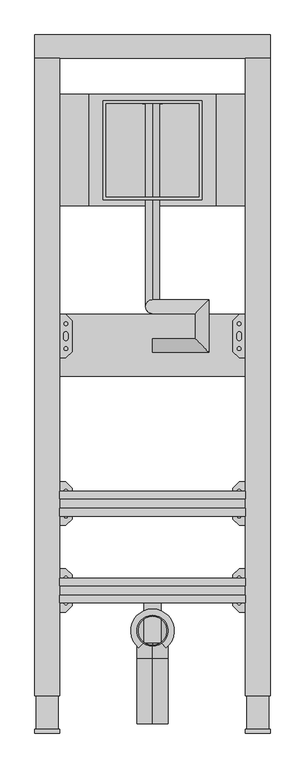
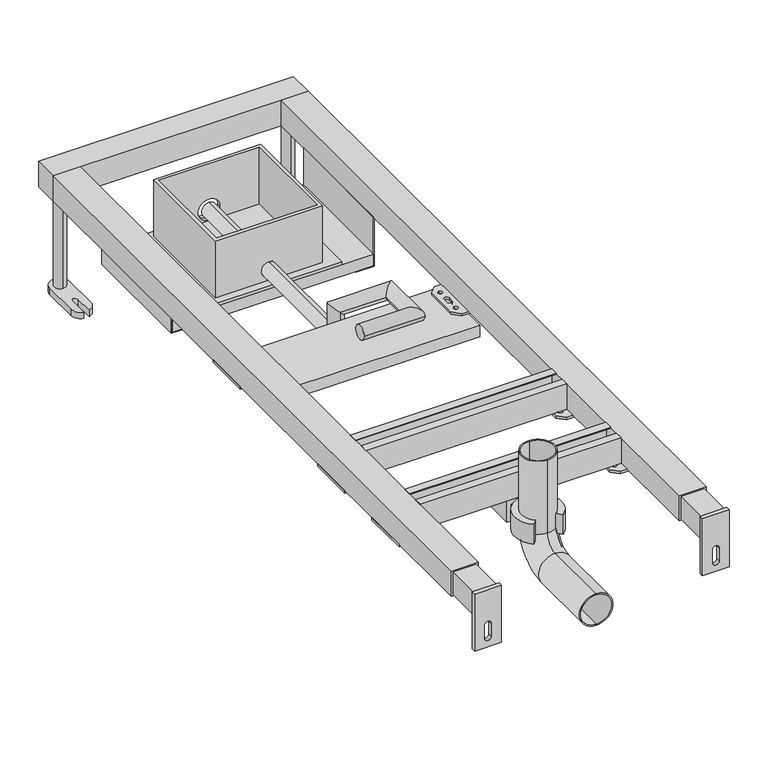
"""IFC4 building model written with IfcOpenShell, lengths in millimetres: flow terminal geometry, LIV-FIX UR 135 IR 230V : LIV-FIX UR 135 IR 230V."""

from ifc_helpers import new_model, si_unit, point, frame, frame_2d, origin, origin_with_axes, place, context, project, spatial, polyline, circle_curve, ellipse_curve, trimmed, segment, composite_curve, outline, extrude, source, transform, mapped, element, save
from ifc_brep_helpers import plane_surface, cylinder_surface, revolved_surface, advanced_brep


def flow_terminal_b01160f4(model_context):
    return source(origin(), model_context, "Body", "SolidModel", [
        advanced_brep(
        [(0.0, 614.0, 167.378088), (0.0, 636.0, 167.378088), (91.0, 614.0, 167.378088), (69.0, 636.0, 167.378088), (91.0, 698.5546816, 167.378088), (69.0, 676.5546816, 167.378088), (0.0, 698.5546816, 167.378088), (0.0, 676.5546816, 167.378088), (0.0, 698.5546816, 135.5), (0.0, 676.5546816, 113.5), (0.0, 1015.0167019, 135.5), (0.0, 1015.0167019, 113.5)],
        [
            (0, 1, circle_curve(frame((0.0, 625.0, 167.378088), z_axis=(-1.0, 0.0, 0.0), x_axis=(0.0, 1.0, 0.0)), 11.0)),
            (1, 0, circle_curve(frame((0.0, 625.0, 167.378088), z_axis=(-1.0, 0.0, 0.0), x_axis=(0.0, 1.0, 0.0)), 11.0)),
            (0, 2),
            (2, 3, ellipse_curve(frame((80.0, 625.0, 167.378088), z_axis=(-0.7071067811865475, -0.7071067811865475, 0.0), x_axis=(-0.7071067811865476, 0.7071067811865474, 0.0)), 15.5563492, 11.0)),
            (3, 1),
            (3, 2, ellipse_curve(frame((80.0, 625.0, 167.378088), z_axis=(-0.7071067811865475, -0.7071067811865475, 0.0), x_axis=(-0.7071067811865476, 0.7071067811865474, 0.0)), 15.5563492, 11.0)),
            (2, 4),
            (4, 5, ellipse_curve(frame((80.0, 687.5546816, 167.378088), z_axis=(0.7071067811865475, -0.7071067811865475, 0.0), x_axis=(-0.7071067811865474, -0.7071067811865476, 0.0)), 15.5563492, 11.0)),
            (5, 3),
            (5, 4, ellipse_curve(frame((80.0, 687.5546816, 167.378088), z_axis=(0.7071067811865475, -0.7071067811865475, 0.0), x_axis=(-0.7071067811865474, -0.7071067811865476, 0.0)), 15.5563492, 11.0)),
            (4, 6),
            (6, 7, ellipse_curve(frame((0.0, 687.5546816, 167.378088), z_axis=(0.7071067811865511, 0.0, 0.7071067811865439), x_axis=(0.7071067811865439, 0.0, -0.7071067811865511)), 15.5563492, 11.0)),
            (7, 5),
            (7, 6, ellipse_curve(frame((0.0, 687.5546816, 167.378088), z_axis=(0.7071067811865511, 0.0, 0.7071067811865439), x_axis=(0.7071067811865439, 0.0, -0.7071067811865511)), 15.5563492, 11.0)),
            (6, 8),
            (8, 9, ellipse_curve(frame((0.0, 687.5546816, 124.5), z_axis=(0.0, -0.7071067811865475, 0.7071067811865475), x_axis=(0.0, 0.7071067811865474, 0.7071067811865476)), 15.5563492, 11.0)),
            (9, 7),
            (9, 8, ellipse_curve(frame((0.0, 687.5546816, 124.5), z_axis=(0.0, -0.7071067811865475, 0.7071067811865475), x_axis=(0.0, 0.7071067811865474, 0.7071067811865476)), 15.5563492, 11.0)),
            (10, 11, circle_curve(frame((0.0, 1015.0167019, 124.5), z_axis=(0.0, 1.0, 0.0), x_axis=(0.0, 0.0, -1.0)), 11.0)),
            (11, 10, circle_curve(frame((0.0, 1015.0167019, 124.5), z_axis=(0.0, 1.0, 0.0), x_axis=(0.0, 0.0, -1.0)), 11.0)),
            (8, 10),
            (11, 9),
        ],
        [
            plane_surface(frame((0.0, 625.0, 156.378088), z_axis=(-1.0, 0.0, 0.0), x_axis=(0.0, 1.0, 0.0))),
            cylinder_surface(frame((0.0, 625.0, 167.378088), z_axis=(-1.0, 0.0, 0.0), x_axis=(0.0, 1.0, 0.0)), 11.0),
            cylinder_surface(frame((80.0, 625.0, 167.378088), z_axis=(0.0, -1.0, 0.0), x_axis=(-1.0, 0.0, 0.0)), 11.0),
            cylinder_surface(frame((80.0, 687.5546816, 167.378088), z_axis=(1.0, 0.0, 0.0), x_axis=(0.0, -1.0, 0.0)), 11.0),
            cylinder_surface(frame((0.0, 687.5546816, 167.378088), z_axis=(0.0, 0.0, 1.0), x_axis=(0.0, -1.0, 0.0)), 11.0),
            plane_surface(frame((-11.0, 1015.0167019, 124.5), z_axis=(0.0, 1.0, 0.0), x_axis=(0.0, 0.0, 1.0))),
            cylinder_surface(frame((0.0, 687.5546816, 124.5), z_axis=(0.0, -1.0, 0.0), x_axis=(0.0, 0.0, -1.0)), 11.0),
        ],
        [
            (0, [[1, 2]]),
            (1, [[-1, 3, 4, 5]]),
            (1, [[-2, -5, 6, -3]]),
            (2, [[-4, 7, 8, 9]]),
            (2, [[-6, -9, 10, -7]]),
            (3, [[-8, 11, 12, 13]]),
            (3, [[-10, -13, 14, -11]]),
            (4, [[-12, 15, 16, 17]]),
            (4, [[-14, -17, 18, -15]]),
            (5, [[19, 20]]),
            (6, [[-16, 21, -20, 22]]),
            (6, [[-18, -22, -19, -21]]),
        ],
    ),
        extrude(outline(polyline([(102.4676142, 1030.1667019), (102.4676142, 850.0770204), (-102.5323858, 850.0770204), (-102.5323858, 1030.1667019), (102.4676142, 1030.1667019)])), frame((0.0, 0.0, 101.5), z_axis=(0.0, 0.0, 1.0), x_axis=(1.0, 0.0, 0.0)), (0.0, 0.0, 1.0), 5.0),
        advanced_brep(
        [(-79.85, 1020.0167019, 196.5), (-79.85, 860.2270204, 196.5), (79.85, 860.2270204, 196.5), (79.85, 1020.0167019, 196.5), (74.85, 1015.0167019, 196.5), (74.85, 865.2270204, 196.5), (-74.85, 865.2270204, 196.5), (-74.85, 1015.0167019, 196.5), (-79.85, 1020.0167019, 101.5), (79.85, 1020.0167019, 101.5), (79.85, 860.2270204, 101.5), (-79.85, 860.2270204, 101.5), (74.85, 1015.0167019, 101.5), (-74.85, 1015.0167019, 101.5), (-74.85, 865.2270204, 101.5), (74.85, 865.2270204, 101.5), (11.0, 865.2270204, 124.5), (-11.0, 865.2270204, 124.5), (-16.25, 1015.0167019, 124.5), (16.25, 1015.0167019, 124.5), (-11.0, 860.2270204, 124.5), (11.0, 860.2270204, 124.5), (16.25, 1020.0167019, 124.5), (-16.25, 1020.0167019, 124.5)],
        [
            (0, 1),
            (1, 2),
            (2, 3),
            (3, 0),
            (4, 5),
            (5, 6),
            (6, 7),
            (7, 4),
            (8, 9),
            (9, 10),
            (10, 11),
            (11, 8),
            (12, 13),
            (13, 14),
            (14, 15),
            (15, 12),
            (4, 12),
            (15, 5),
            (14, 6),
            (16, 17, circle_curve(frame((0.0, 865.2270204, 124.5), z_axis=(0.0, -1.0, 0.0), x_axis=(1.0, 0.0, 0.0)), 11.0)),
            (17, 16, circle_curve(frame((0.0, 865.2270204, 124.5), z_axis=(0.0, -1.0, 0.0), x_axis=(1.0, 0.0, 0.0)), 11.0)),
            (13, 7),
            (18, 19, circle_curve(frame((0.0, 1015.0167019, 124.5), z_axis=(0.0, 1.0, 0.0), x_axis=(-1.0, 0.0, 0.0)), 16.25)),
            (19, 18, circle_curve(frame((0.0, 1015.0167019, 124.5), z_axis=(0.0, 1.0, 0.0), x_axis=(-1.0, 0.0, 0.0)), 16.25)),
            (0, 8),
            (11, 1),
            (10, 2),
            (20, 21, circle_curve(frame((0.0, 860.2270204, 124.5), z_axis=(0.0, 1.0, 0.0), x_axis=(1.0, 0.0, 0.0)), 11.0)),
            (21, 20, circle_curve(frame((0.0, 860.2270204, 124.5), z_axis=(0.0, 1.0, 0.0), x_axis=(1.0, 0.0, 0.0)), 11.0)),
            (9, 3),
            (22, 23, circle_curve(frame((0.0, 1020.0167019, 124.5), z_axis=(0.0, -1.0, 0.0), x_axis=(-1.0, 0.0, 0.0)), 16.25)),
            (23, 22, circle_curve(frame((0.0, 1020.0167019, 124.5), z_axis=(0.0, -1.0, 0.0), x_axis=(-1.0, 0.0, 0.0)), 16.25)),
            (22, 19),
            (18, 23),
            (20, 17),
            (16, 21),
        ],
        [
            plane_surface(frame((74.85, 1015.0167019, 196.5), z_axis=(0.0, 0.0, 1.0), x_axis=(0.0, -1.0, 0.0))),
            plane_surface(frame((74.85, 1015.0167019, 101.5), z_axis=(0.0, 0.0, -1.0), x_axis=(0.0, 1.0, 0.0))),
            plane_surface(frame((74.85, 1015.0167019, 196.5), z_axis=(-1.0, 0.0, 0.0), x_axis=(0.0, 0.0, -1.0))),
            plane_surface(frame((74.85, 865.2270204, 196.5), z_axis=(0.0, 1.0, 0.0), x_axis=(0.0, 0.0, -1.0))),
            plane_surface(frame((-74.85, 865.2270204, 196.5), z_axis=(1.0, 0.0, 0.0), x_axis=(0.0, 0.0, -1.0))),
            plane_surface(frame((-74.85, 1015.0167019, 196.5), z_axis=(0.0, -1.0, 0.0), x_axis=(0.0, 0.0, -1.0))),
            plane_surface(frame((-79.85, 1020.0167019, 196.5), z_axis=(-1.0, 0.0, 0.0), x_axis=(0.0, 0.0, -1.0))),
            plane_surface(frame((-79.85, 860.2270204, 196.5), z_axis=(0.0, -1.0, 0.0), x_axis=(0.0, 0.0, -1.0))),
            plane_surface(frame((79.85, 860.2270204, 196.5), z_axis=(1.0, 0.0, 0.0), x_axis=(0.0, 0.0, -1.0))),
            plane_surface(frame((79.85, 1020.0167019, 196.5), z_axis=(0.0, 1.0, 0.0), x_axis=(0.0, 0.0, -1.0))),
            revolved_surface(polyline([(-16.25, 1015.0167019, 124.5), (-16.25, 1020.0167019, 124.5)]), (0.0, 1020.0167019, 124.5), (0.0, -1.0, 0.0)),
            revolved_surface(polyline([(11.0, 865.2270204, 124.5), (11.0, 860.2270204, 124.5)]), (0.0, 860.2270204, 124.5), (0.0, 1.0, 0.0)),
        ],
        [
            (0, [[1, 2, 3, 4], [5, 6, 7, 8]]),
            (1, [[9, 10, 11, 12], [13, 14, 15, 16]]),
            (2, [[-5, 17, -16, 18]]),
            (3, [[-6, -18, -15, 19], [20, 21]]),
            (4, [[-7, -19, -14, 22]]),
            (5, [[-8, -22, -13, -17], [23, 24]]),
            (6, [[-1, 25, -12, 26]]),
            (7, [[-2, -26, -11, 27], [28, 29]]),
            (8, [[-3, -27, -10, 30]]),
            (9, [[-4, -30, -9, -25], [31, 32]]),
            (10, [[33, -23, 34, -31]]),
            (10, [[-33, -32, -34, -24]]),
            (11, [[35, -20, 36, -28]]),
            (11, [[-35, -29, -36, -21]]),
        ],
    ),
        extrude(outline(polyline([(150.0, 1030.1667019), (150.0, 850.0770204), (-150.0, 850.0770204), (-150.0, 1030.1667019), (150.0, 1030.1667019)])), frame((0.0, 0.0, 83.5), z_axis=(0.0, 0.0, 1.0), x_axis=(1.0, 0.0, 0.0)), (0.0, 0.0, 1.0), 18.0),
        extrude(outline(polyline([(160.0, 185.0), (160.0, 150.0), (83.5, 150.0), (83.5, 123.5), (82.0, 123.5), (82.0, 151.5), (158.5, 151.5), (158.5, 185.0), (160.0, 185.0)])), frame((0.0, 850.0770204, 0.0), z_axis=(0.0, 1.0, 0.0), x_axis=(0.0, 0.0, 1.0)), (0.0, 0.0, 1.0), 180.0896815),
        extrude(outline(polyline([(160.0, -185.0), (158.5, -185.0), (158.5, -151.5), (82.0, -151.5), (82.0, -123.5), (83.5, -123.5), (83.5, -150.0), (160.0, -150.0), (160.0, -185.0)])), frame((0.0, 850.0770204, 0.0), z_axis=(0.0, 1.0, 0.0), x_axis=(0.0, 0.0, 1.0)), (0.0, 0.0, 1.0), 180.0896815),
        extrude(outline(polyline([(350.0, 200.0), (362.4845167, 200.0), (362.4845167, 198.5), (351.5, 198.5), (351.5, 161.5), (388.5, 161.5), (388.5, 198.5), (377.5154833, 198.5), (377.5154833, 200.0), (390.0, 200.0), (390.0, 160.0), (350.0, 160.0), (350.0, 200.0)])), frame((-150.0, 0.0, 0.0), z_axis=(1.0, 0.0, 0.0), x_axis=(0.0, 1.0, 0.0)), (0.0, 0.0, 1.0), 300.0),
        extrude(outline(polyline([(140.0, 335.0), (130.0, 345.0), (130.0, 395.0), (140.0, 405.0), (190.0, 405.0), (190.0, 335.0), (140.0, 335.0)]), holes=[composite_curve([segment(trimmed(circle_curve(frame_2d((175.0, 370.0)), 4.5), [point((175.0, 365.5))], [point((175.0, 374.5))], True, "CARTESIAN"), True, "CONTINUOUS"), segment(trimmed(circle_curve(frame_2d((175.0, 370.0)), 4.5), [point((175.0, 374.5))], [point((175.0, 365.5))], True, "CARTESIAN"), True, "CONTINUOUS")], self_intersect=False), composite_curve([segment(trimmed(circle_curve(frame_2d((175.0, 390.0)), 4.5), [point((175.0, 385.5))], [point((175.0, 394.5))], True, "CARTESIAN"), True, "CONTINUOUS"), segment(trimmed(circle_curve(frame_2d((175.0, 390.0)), 4.5), [point((175.0, 394.5))], [point((175.0, 385.5))], True, "CARTESIAN"), True, "CONTINUOUS")], self_intersect=False), composite_curve([segment(trimmed(circle_curve(frame_2d((175.0, 350.0)), 4.5), [point((175.0, 345.5))], [point((175.0, 354.5))], True, "CARTESIAN"), True, "CONTINUOUS"), segment(trimmed(circle_curve(frame_2d((175.0, 350.0)), 4.5), [point((175.0, 354.5))], [point((175.0, 345.5))], True, "CARTESIAN"), True, "CONTINUOUS")], self_intersect=False), composite_curve([segment(trimmed(circle_curve(frame_2d((140.0, 390.0)), 2.9795218), [point((140.0, 387.0204782))], [point((140.0, 392.9795218))], True, "CARTESIAN"), True, "CONTINUOUS"), segment(trimmed(circle_curve(frame_2d((140.0, 390.0)), 2.9795218), [point((140.0, 392.9795218))], [point((140.0, 387.0204782))], True, "CARTESIAN"), True, "CONTINUOUS")], self_intersect=False), composite_curve([segment(trimmed(circle_curve(frame_2d((140.0, 350.0)), 2.9795218), [point((140.0, 347.0204782))], [point((140.0, 352.9795218))], True, "CARTESIAN"), True, "CONTINUOUS"), segment(trimmed(circle_curve(frame_2d((140.0, 350.0)), 2.9795218), [point((140.0, 352.9795218))], [point((140.0, 347.0204782))], True, "CARTESIAN"), True, "CONTINUOUS")], self_intersect=False), composite_curve([segment(trimmed(circle_curve(frame_2d((140.0, 373.5)), 3.5), [point((143.5, 373.5))], [point((136.5, 373.5))], True, "CARTESIAN"), True, "CONTINUOUS"), segment(polyline([(136.5, 373.5), (136.5, 366.5)]), True, "CONTINUOUS"), segment(trimmed(circle_curve(frame_2d((140.0, 366.5)), 3.5), [point((136.5, 366.5))], [point((143.5, 366.5))], True, "CARTESIAN"), True, "CONTINUOUS"), segment(polyline([(143.5, 366.5), (143.5, 373.5)]), True, "CONTINUOUS")], self_intersect=False)]), frame((0.0, 0.0, 156.0), z_axis=(0.0, 0.0, 1.0), x_axis=(1.0, 0.0, 0.0)), (0.0, 0.0, 1.0), 4.0),
        extrude(outline(polyline([(-140.0, 335.0), (-190.0, 335.0), (-190.0, 405.0), (-140.0, 405.0), (-130.0, 395.0), (-130.0, 345.0), (-140.0, 335.0)]), holes=[composite_curve([segment(trimmed(circle_curve(frame_2d((-175.0, 370.0)), 4.5), [point((-175.0, 365.5))], [point((-175.0, 374.5))], True, "CARTESIAN"), True, "CONTINUOUS"), segment(trimmed(circle_curve(frame_2d((-175.0, 370.0)), 4.5), [point((-175.0, 374.5))], [point((-175.0, 365.5))], True, "CARTESIAN"), True, "CONTINUOUS")], self_intersect=False), composite_curve([segment(trimmed(circle_curve(frame_2d((-175.0, 390.0)), 4.5), [point((-175.0, 385.5))], [point((-175.0, 394.5))], True, "CARTESIAN"), True, "CONTINUOUS"), segment(trimmed(circle_curve(frame_2d((-175.0, 390.0)), 4.5), [point((-175.0, 394.5))], [point((-175.0, 385.5))], True, "CARTESIAN"), True, "CONTINUOUS")], self_intersect=False), composite_curve([segment(trimmed(circle_curve(frame_2d((-175.0, 350.0)), 4.5), [point((-175.0, 345.5))], [point((-175.0, 354.5))], True, "CARTESIAN"), True, "CONTINUOUS"), segment(trimmed(circle_curve(frame_2d((-175.0, 350.0)), 4.5), [point((-175.0, 354.5))], [point((-175.0, 345.5))], True, "CARTESIAN"), True, "CONTINUOUS")], self_intersect=False), composite_curve([segment(trimmed(circle_curve(frame_2d((-140.0, 390.0)), 2.9795218), [point((-140.0, 387.0204782))], [point((-140.0, 392.9795218))], True, "CARTESIAN"), True, "CONTINUOUS"), segment(trimmed(circle_curve(frame_2d((-140.0, 390.0)), 2.9795218), [point((-140.0, 392.9795218))], [point((-140.0, 387.0204782))], True, "CARTESIAN"), True, "CONTINUOUS")], self_intersect=False), composite_curve([segment(trimmed(circle_curve(frame_2d((-140.0, 350.0)), 2.9795218), [point((-140.0, 347.0204782))], [point((-140.0, 352.9795218))], True, "CARTESIAN"), True, "CONTINUOUS"), segment(trimmed(circle_curve(frame_2d((-140.0, 350.0)), 2.9795218), [point((-140.0, 352.9795218))], [point((-140.0, 347.0204782))], True, "CARTESIAN"), True, "CONTINUOUS")], self_intersect=False), composite_curve([segment(polyline([(-143.5, 373.5), (-143.5, 366.5)]), True, "CONTINUOUS"), segment(trimmed(circle_curve(frame_2d((-140.0, 366.5)), 3.5), [point((-143.5, 366.5))], [point((-136.5, 366.5))], True, "CARTESIAN"), True, "CONTINUOUS"), segment(polyline([(-136.5, 366.5), (-136.5, 373.5)]), True, "CONTINUOUS"), segment(trimmed(circle_curve(frame_2d((-140.0, 373.5)), 3.5), [point((-136.5, 373.5))], [point((-143.5, 373.5))], True, "CARTESIAN"), True, "CONTINUOUS")], self_intersect=False)]), frame((0.0, 0.0, 156.0), z_axis=(0.0, 0.0, 1.0), x_axis=(1.0, 0.0, 0.0)), (0.0, 0.0, 1.0), 4.0),
        extrude(outline(polyline([(150.0, 675.0), (150.0, 575.0), (-150.0, 575.0), (-150.0, 675.0), (150.0, 675.0)])), frame((0.0, 0.0, 138.0), z_axis=(0.0, 0.0, 1.0), x_axis=(1.0, 0.0, 0.0)), (0.0, 0.0, 1.0), 18.0),
        advanced_brep(
        [(-14.0, 145.7552373, 136.5), (14.0, 145.7552373, 136.5), (14.0, 145.7552373, 150.0), (-14.0, 145.7552373, 150.0), (-14.0, 250.0, 136.5), (-14.0, 250.0, 150.0), (14.0, 250.0, 150.0), (14.0, 250.0, 136.5), (-14.0, 185.7123152, 136.5), (-15.0727332, 145.0547571, 136.5), (-22.1922786, 137.9352116, 136.5), (-14.0, 197.0780299, 136.5), (14.0, 197.0780299, 136.5), (22.1922786, 137.9352116, 136.5), (15.0727332, 145.0547571, 136.5), (14.0, 185.7123152, 136.5), (14.0, 185.7123152, 150.0), (14.0, 197.0780299, 150.0), (-14.0, 185.7123152, 150.0), (-14.0, 197.0780299, 150.0), (0.0, 200.0, 150.0), (15.0727332, 145.0547571, 167.5), (22.1922786, 137.9352116, 167.5), (0.0, 200.0, 167.5), (-22.1922786, 137.9352116, 167.5), (-15.0727332, 145.0547571, 167.5)],
        [
            (0, 1),
            (1, 2),
            (2, 3),
            (3, 0),
            (4, 5),
            (5, 6),
            (6, 7),
            (7, 4),
            (0, 8),
            (8, 9, circle_curve(frame((0.0, 165.0, 136.5), z_axis=(0.0, 0.0, 1.0), x_axis=(0.0, -1.0, 0.0)), 25.0)),
            (9, 10),
            (10, 11, circle_curve(frame((0.0, 165.0, 136.5), z_axis=(0.0, 0.0, -1.0), x_axis=(0.0, -1.0, 0.0)), 35.0)),
            (11, 4),
            (7, 12),
            (12, 13, circle_curve(frame((0.0, 165.0, 136.5), z_axis=(0.0, 0.0, -1.0), x_axis=(0.0, -1.0, 0.0)), 35.0)),
            (13, 14),
            (14, 15, circle_curve(frame((0.0, 165.0, 136.5), z_axis=(0.0, 0.0, 1.0), x_axis=(0.0, -1.0, 0.0)), 25.0)),
            (15, 1),
            (15, 16),
            (16, 2),
            (6, 17),
            (17, 12),
            (16, 18, circle_curve(frame((0.0, 165.0, 150.0), z_axis=(0.0, 0.0, 1.0), x_axis=(0.0, -1.0, 0.0)), 25.0)),
            (18, 3),
            (5, 19),
            (19, 20, circle_curve(frame((0.0, 165.0, 150.0), z_axis=(0.0, 0.0, -1.0), x_axis=(0.0, -1.0, 0.0)), 35.0)),
            (20, 17, circle_curve(frame((0.0, 165.0, 150.0), z_axis=(0.0, 0.0, -1.0), x_axis=(0.0, -1.0, 0.0)), 35.0)),
            (18, 8),
            (11, 19),
            (21, 22),
            (22, 23, circle_curve(frame((0.0, 165.0, 167.5), z_axis=(0.0, 0.0, 1.0), x_axis=(0.0, -1.0, 0.0)), 35.0)),
            (23, 24, circle_curve(frame((0.0, 165.0, 167.5), z_axis=(0.0, 0.0, 1.0), x_axis=(0.0, -1.0, 0.0)), 35.0)),
            (24, 25),
            (25, 21, circle_curve(frame((0.0, 165.0, 167.5), z_axis=(0.0, 0.0, -1.0), x_axis=(0.0, -1.0, 0.0)), 25.0)),
            (25, 9),
            (14, 21),
            (24, 10),
            (23, 20),
            (22, 13),
        ],
        [
            plane_surface(frame((-14.0, 145.7552373, 136.5), z_axis=(0.0, -1.0, 0.0), x_axis=(0.0, 0.0, -1.0))),
            plane_surface(frame((-14.0, 250.0, 136.5), z_axis=(0.0, 1.0, 0.0), x_axis=(0.0, 0.0, 1.0))),
            plane_surface(frame((14.0, 250.0, 136.5), z_axis=(0.0, 0.0, -1.0), x_axis=(0.0, -1.0, 0.0))),
            plane_surface(frame((14.0, 250.0, 150.0), z_axis=(1.0, 0.0, 0.0), x_axis=(0.0, -1.0, 0.0))),
            plane_surface(frame((-14.0, 250.0, 150.0), z_axis=(0.0, 0.0, 1.0), x_axis=(0.0, -1.0, 0.0))),
            plane_surface(frame((-14.0, 250.0, 136.5), z_axis=(-1.0, 0.0, 0.0), x_axis=(0.0, -1.0, 0.0))),
            plane_surface(frame((0.0, 140.0, 167.5), z_axis=(0.0, 0.0, 1.0), x_axis=(-1.0, 0.0, 0.0))),
            revolved_surface(polyline([(0.0, 140.0, 167.5), (0.0, 140.0, 136.5)]), (0.0, 165.0, 167.5), (0.0, 0.0, 1.0)),
            plane_surface(frame((-15.0727332, 145.0547571, 136.5), z_axis=(0.7071067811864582, -0.707106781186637, 0.0), x_axis=(0.0, 0.0, 1.0))),
            cylinder_surface(frame((0.0, 165.0, 167.5), z_axis=(0.0, 0.0, -1.0), x_axis=(0.0, -1.0, 0.0)), 35.0),
            plane_surface(frame((22.1922786, 137.9352116, 136.5), z_axis=(-0.7071067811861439, -0.7071067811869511, 0.0), x_axis=(0.0, 0.0, 1.0))),
        ],
        [
            (0, [[1, 2, 3, 4]]),
            (1, [[5, 6, 7, 8]]),
            (2, [[-1, 9, 10, 11, 12, 13, -8, 14, 15, 16, 17, 18]]),
            (3, [[-2, -18, 19, 20]]),
            (3, [[-7, 21, 22, -14]]),
            (4, [[-3, -20, 23, 24]]),
            (4, [[-6, 25, 26, 27, -21]]),
            (5, [[-4, -24, 28, -9]]),
            (5, [[-5, -13, 29, -25]]),
            (6, [[30, 31, 32, 33, 34]]),
            (7, [[-34, 35, -10, -28, -23, -19, -17, 36]]),
            (8, [[-33, 37, -11, -35]]),
            (9, [[-32, 38, -26, -29, -12, -37]]),
            (9, [[-31, 39, -15, -22, -27, -38]]),
            (10, [[-30, -36, -16, -39]]),
        ],
    ),
        extrude(outline(polyline([(210.0, 200.0), (222.4845167, 200.0), (222.4845167, 198.5), (211.5, 198.5), (211.5, 161.5), (248.5, 161.5), (248.5, 198.5), (237.5154833, 198.5), (237.5154833, 200.0), (250.0, 200.0), (250.0, 160.0), (210.0, 160.0), (210.0, 200.0)])), frame((-150.0, 0.0, 0.0), z_axis=(1.0, 0.0, 0.0), x_axis=(0.0, 1.0, 0.0)), (0.0, 0.0, 1.0), 300.0),
        extrude(outline(polyline([(140.0, 605.0), (130.0, 615.0), (130.0, 665.0), (140.0, 675.0), (190.0, 675.0), (190.0, 605.0), (140.0, 605.0)]), holes=[composite_curve([segment(trimmed(circle_curve(frame_2d((175.0, 640.0)), 4.5), [point((175.0, 635.5))], [point((175.0, 644.5))], True, "CARTESIAN"), True, "CONTINUOUS"), segment(trimmed(circle_curve(frame_2d((175.0, 640.0)), 4.5), [point((175.0, 644.5))], [point((175.0, 635.5))], True, "CARTESIAN"), True, "CONTINUOUS")], self_intersect=False), composite_curve([segment(trimmed(circle_curve(frame_2d((175.0, 660.0)), 4.5), [point((175.0, 655.5))], [point((175.0, 664.5))], True, "CARTESIAN"), True, "CONTINUOUS"), segment(trimmed(circle_curve(frame_2d((175.0, 660.0)), 4.5), [point((175.0, 664.5))], [point((175.0, 655.5))], True, "CARTESIAN"), True, "CONTINUOUS")], self_intersect=False), composite_curve([segment(trimmed(circle_curve(frame_2d((175.0, 620.0)), 4.5), [point((175.0, 615.5))], [point((175.0, 624.5))], True, "CARTESIAN"), True, "CONTINUOUS"), segment(trimmed(circle_curve(frame_2d((175.0, 620.0)), 4.5), [point((175.0, 624.5))], [point((175.0, 615.5))], True, "CARTESIAN"), True, "CONTINUOUS")], self_intersect=False), composite_curve([segment(trimmed(circle_curve(frame_2d((140.0, 660.0)), 2.9795218), [point((140.0, 657.0204782))], [point((140.0, 662.9795218))], True, "CARTESIAN"), True, "CONTINUOUS"), segment(trimmed(circle_curve(frame_2d((140.0, 660.0)), 2.9795218), [point((140.0, 662.9795218))], [point((140.0, 657.0204782))], True, "CARTESIAN"), True, "CONTINUOUS")], self_intersect=False), composite_curve([segment(trimmed(circle_curve(frame_2d((140.0, 620.0)), 2.9795218), [point((140.0, 617.0204782))], [point((140.0, 622.9795218))], True, "CARTESIAN"), True, "CONTINUOUS"), segment(trimmed(circle_curve(frame_2d((140.0, 620.0)), 2.9795218), [point((140.0, 622.9795218))], [point((140.0, 617.0204782))], True, "CARTESIAN"), True, "CONTINUOUS")], self_intersect=False), composite_curve([segment(trimmed(circle_curve(frame_2d((140.0, 643.5)), 3.5), [point((143.5, 643.5))], [point((136.5, 643.5))], True, "CARTESIAN"), True, "CONTINUOUS"), segment(polyline([(136.5, 643.5), (136.5, 636.5)]), True, "CONTINUOUS"), segment(trimmed(circle_curve(frame_2d((140.0, 636.5)), 3.5), [point((136.5, 636.5))], [point((143.5, 636.5))], True, "CARTESIAN"), True, "CONTINUOUS"), segment(polyline([(143.5, 636.5), (143.5, 643.5)]), True, "CONTINUOUS")], self_intersect=False)]), frame((0.0, 0.0, 156.0), z_axis=(0.0, 0.0, 1.0), x_axis=(1.0, 0.0, 0.0)), (0.0, 0.0, 1.0), 4.0),
        extrude(outline(polyline([(-140.0, 605.0), (-190.0, 605.0), (-190.0, 675.0), (-140.0, 675.0), (-130.0, 665.0), (-130.0, 615.0), (-140.0, 605.0)]), holes=[composite_curve([segment(trimmed(circle_curve(frame_2d((-175.0, 640.0)), 4.5), [point((-175.0, 635.5))], [point((-175.0, 644.5))], True, "CARTESIAN"), True, "CONTINUOUS"), segment(trimmed(circle_curve(frame_2d((-175.0, 640.0)), 4.5), [point((-175.0, 644.5))], [point((-175.0, 635.5))], True, "CARTESIAN"), True, "CONTINUOUS")], self_intersect=False), composite_curve([segment(trimmed(circle_curve(frame_2d((-175.0, 660.0)), 4.5), [point((-175.0, 655.5))], [point((-175.0, 664.5))], True, "CARTESIAN"), True, "CONTINUOUS"), segment(trimmed(circle_curve(frame_2d((-175.0, 660.0)), 4.5), [point((-175.0, 664.5))], [point((-175.0, 655.5))], True, "CARTESIAN"), True, "CONTINUOUS")], self_intersect=False), composite_curve([segment(trimmed(circle_curve(frame_2d((-175.0, 620.0)), 4.5), [point((-175.0, 615.5))], [point((-175.0, 624.5))], True, "CARTESIAN"), True, "CONTINUOUS"), segment(trimmed(circle_curve(frame_2d((-175.0, 620.0)), 4.5), [point((-175.0, 624.5))], [point((-175.0, 615.5))], True, "CARTESIAN"), True, "CONTINUOUS")], self_intersect=False), composite_curve([segment(trimmed(circle_curve(frame_2d((-140.0, 660.0)), 2.9795218), [point((-140.0, 657.0204782))], [point((-140.0, 662.9795218))], True, "CARTESIAN"), True, "CONTINUOUS"), segment(trimmed(circle_curve(frame_2d((-140.0, 660.0)), 2.9795218), [point((-140.0, 662.9795218))], [point((-140.0, 657.0204782))], True, "CARTESIAN"), True, "CONTINUOUS")], self_intersect=False), composite_curve([segment(trimmed(circle_curve(frame_2d((-140.0, 620.0)), 2.9795218), [point((-140.0, 617.0204782))], [point((-140.0, 622.9795218))], True, "CARTESIAN"), True, "CONTINUOUS"), segment(trimmed(circle_curve(frame_2d((-140.0, 620.0)), 2.9795218), [point((-140.0, 622.9795218))], [point((-140.0, 617.0204782))], True, "CARTESIAN"), True, "CONTINUOUS")], self_intersect=False), composite_curve([segment(polyline([(-143.5, 643.5), (-143.5, 636.5)]), True, "CONTINUOUS"), segment(trimmed(circle_curve(frame_2d((-140.0, 636.5)), 3.5), [point((-143.5, 636.5))], [point((-136.5, 636.5))], True, "CARTESIAN"), True, "CONTINUOUS"), segment(polyline([(-136.5, 636.5), (-136.5, 643.5)]), True, "CONTINUOUS"), segment(trimmed(circle_curve(frame_2d((-140.0, 643.5)), 3.5), [point((-136.5, 643.5))], [point((-143.5, 643.5))], True, "CARTESIAN"), True, "CONTINUOUS")], self_intersect=False)]), frame((0.0, 0.0, 156.0), z_axis=(0.0, 0.0, 1.0), x_axis=(1.0, 0.0, 0.0)), (0.0, 0.0, 1.0), 4.0),
        advanced_brep(
        [(0.0, 15.0, 75.0), (0.0, 15.0, 125.0), (0.0, 15.0, 77.0), (0.0, 15.0, 123.0), (0.0, 120.0, 75.0), (0.0, 120.0, 125.0), (0.0, 190.0, 260.0), (0.0, 140.0, 260.0), (0.0, 188.0, 260.0), (0.0, 142.0, 260.0), (0.0, 140.0, 145.0), (0.0, 190.0, 145.0), (0.0, 120.0, 77.0), (0.0, 120.0, 123.0), (0.0, 142.0, 145.0), (0.0, 188.0, 145.0)],
        [
            (0, 1, circle_curve(frame((0.0, 15.0, 100.0), z_axis=(0.0, -1.0, 0.0), x_axis=(0.0, 0.0, 1.0)), 25.0)),
            (1, 0, circle_curve(frame((0.0, 15.0, 100.0), z_axis=(0.0, -1.0, 0.0), x_axis=(0.0, 0.0, 1.0)), 25.0)),
            (2, 3, circle_curve(frame((0.0, 15.0, 100.0), z_axis=(0.0, 1.0, 0.0), x_axis=(0.0, 0.0, 1.0)), 23.0)),
            (3, 2, circle_curve(frame((0.0, 15.0, 100.0), z_axis=(0.0, 1.0, 0.0), x_axis=(0.0, 0.0, 1.0)), 23.0)),
            (0, 4),
            (4, 5, circle_curve(frame((0.0, 120.0, 100.0), z_axis=(0.0, -1.0, 0.0), x_axis=(0.0, 0.0, 1.0)), 25.0)),
            (5, 1),
            (5, 4, circle_curve(frame((0.0, 120.0, 100.0), z_axis=(0.0, -1.0, 0.0), x_axis=(0.0, 0.0, 1.0)), 25.0)),
            (6, 7, circle_curve(frame((0.0, 165.0, 260.0), z_axis=(0.0, 0.0, 1.0), x_axis=(0.0, -1.0, 0.0)), 25.0)),
            (7, 6, circle_curve(frame((0.0, 165.0, 260.0), z_axis=(0.0, 0.0, 1.0), x_axis=(0.0, -1.0, 0.0)), 25.0)),
            (8, 9, circle_curve(frame((0.0, 165.0, 260.0), z_axis=(0.0, 0.0, -1.0), x_axis=(0.0, -1.0, 0.0)), 23.0)),
            (9, 8, circle_curve(frame((0.0, 165.0, 260.0), z_axis=(0.0, 0.0, -1.0), x_axis=(0.0, -1.0, 0.0)), 23.0)),
            (10, 11, circle_curve(frame((0.0, 165.0, 145.0), z_axis=(0.0, 0.0, 1.0), x_axis=(0.0, -1.0, 0.0)), 25.0)),
            (11, 6),
            (7, 10),
            (11, 10, circle_curve(frame((0.0, 165.0, 145.0), z_axis=(0.0, 0.0, 1.0), x_axis=(0.0, -1.0, 0.0)), 25.0)),
            (10, 5, circle_curve(frame((0.0, 120.0, 145.0), z_axis=(-1.0, 0.0, 0.0), x_axis=(0.0, 0.0, -1.0)), 20.0)),
            (4, 11, circle_curve(frame((0.0, 120.0, 145.0), z_axis=(1.0, 0.0, 0.0), x_axis=(0.0, 0.0, -1.0)), 70.0)),
            (2, 12),
            (12, 13, circle_curve(frame((0.0, 120.0, 100.0), z_axis=(0.0, 1.0, 0.0), x_axis=(0.0, 0.0, 1.0)), 23.0)),
            (13, 3),
            (13, 12, circle_curve(frame((0.0, 120.0, 100.0), z_axis=(0.0, 1.0, 0.0), x_axis=(0.0, 0.0, 1.0)), 23.0)),
            (14, 13, circle_curve(frame((0.0, 120.0, 145.0), z_axis=(-1.0, 0.0, 0.0), x_axis=(0.0, 0.0, -1.0)), 22.0)),
            (12, 15, circle_curve(frame((0.0, 120.0, 145.0), z_axis=(1.0, 0.0, 0.0), x_axis=(0.0, 0.0, -1.0)), 68.0)),
            (15, 14, circle_curve(frame((0.0, 165.0, 145.0), z_axis=(0.0, 0.0, 1.0), x_axis=(0.0, -1.0, 0.0)), 23.0)),
            (14, 15, circle_curve(frame((0.0, 165.0, 145.0), z_axis=(0.0, 0.0, 1.0), x_axis=(0.0, -1.0, 0.0)), 23.0)),
            (15, 8),
            (9, 14),
        ],
        [
            plane_surface(frame((0.0, 15.0, 100.0), z_axis=(0.0, -1.0, 0.0), x_axis=(1.0, 0.0, 0.0))),
            cylinder_surface(frame((0.0, 15.0, 100.0), z_axis=(0.0, -1.0, 0.0), x_axis=(0.0, 0.0, 1.0)), 25.0),
            plane_surface(frame((0.0, 165.0, 260.0), z_axis=(0.0, 0.0, 1.0), x_axis=(1.0, 0.0, 0.0))),
            cylinder_surface(frame((0.0, 165.0, 145.0), z_axis=(0.0, 0.0, -1.0), x_axis=(0.0, -1.0, 0.0)), 25.0),
            revolved_surface(trimmed(ellipse_curve(frame((0.0, 120.0, 100.0), z_axis=(0.0, -1.0, 0.0), x_axis=(0.0, 0.0, 1.0)), 25.0, 25.0), [point((0.0, 120.0, 75.0))], [point((0.0, 120.0, 125.0))], True, "CARTESIAN"), (0.0, 120.0, 145.0), (1.0, 0.0, 0.0)),
            revolved_surface(trimmed(ellipse_curve(frame((0.0, 120.0, 100.0), z_axis=(0.0, -1.0, 0.0), x_axis=(0.0, 0.0, 1.0)), 25.0, 25.0), [point((0.0, 120.0, 125.0))], [point((0.0, 120.0, 75.0))], True, "CARTESIAN"), (0.0, 120.0, 145.0), (1.0, 0.0, 0.0)),
            revolved_surface(polyline([(0.0, 120.0, 123.0), (0.0, 15.0, 123.0)]), (0.0, 15.0, 100.0), (0.0, 1.0, 0.0)),
            revolved_surface(trimmed(ellipse_curve(frame((0.0, 120.0, 100.0), z_axis=(0.0, 1.0, 0.0), x_axis=(0.0, 0.0, 1.0)), 23.0, 23.0), [point((0.0, 120.0, 77.0))], [point((0.0, 120.0, 123.0))], True, "CARTESIAN"), (0.0, 120.0, 145.0), (1.0, 0.0, 0.0)),
            revolved_surface(trimmed(ellipse_curve(frame((0.0, 120.0, 100.0), z_axis=(0.0, 1.0, 0.0), x_axis=(0.0, 0.0, 1.0)), 23.0, 23.0), [point((0.0, 120.0, 123.0))], [point((0.0, 120.0, 77.0))], True, "CARTESIAN"), (0.0, 120.0, 145.0), (1.0, 0.0, 0.0)),
            revolved_surface(polyline([(0.0, 142.0, 260.0), (0.0, 142.0, 145.0)]), (0.0, 165.0, 145.0), (0.0, 0.0, 1.0)),
        ],
        [
            (0, [[1, 2], [3, 4]]),
            (1, [[-1, 5, 6, 7]]),
            (1, [[-2, -7, 8, -5]]),
            (2, [[9, 10], [11, 12]]),
            (3, [[13, 14, -10, 15]]),
            (3, [[16, -15, -9, -14]]),
            (4, [[17, -6, 18, -13]]),
            (5, [[-18, -8, -17, -16]]),
            (6, [[-3, 19, 20, 21]]),
            (6, [[-4, -21, 22, -19]]),
            (7, [[23, -20, 24, 25]]),
            (8, [[-24, -22, -23, 26]]),
            (9, [[-25, 27, -12, 28]]),
            (9, [[-26, -28, -11, -27]]),
        ],
    ),
        extrude(outline(polyline([(160.0, 20.9285173), (160.0, -20.5714827), (126.5, -20.5714827), (126.5, 20.9285173), (160.0, 20.9285173)]), holes=[polyline([(152.5, 13.75), (134.0, 13.75), (134.0, -13.75), (152.5, -13.75), (152.5, 13.75)])]), frame((0.0, 210.0, 0.0), z_axis=(0.0, 1.0, 0.0), x_axis=(0.0, 0.0, 1.0)), (0.0, 0.0, 1.0), 40.0),
        extrude(outline(polyline([(140.0, 195.0), (130.0, 205.0), (130.0, 255.0), (140.0, 265.0), (190.0, 265.0), (190.0, 195.0), (140.0, 195.0)]), holes=[composite_curve([segment(trimmed(circle_curve(frame_2d((175.0, 230.0)), 4.5), [point((175.0, 225.5))], [point((175.0, 234.5))], True, "CARTESIAN"), True, "CONTINUOUS"), segment(trimmed(circle_curve(frame_2d((175.0, 230.0)), 4.5), [point((175.0, 234.5))], [point((175.0, 225.5))], True, "CARTESIAN"), True, "CONTINUOUS")], self_intersect=False), composite_curve([segment(trimmed(circle_curve(frame_2d((175.0, 250.0)), 4.5), [point((175.0, 245.5))], [point((175.0, 254.5))], True, "CARTESIAN"), True, "CONTINUOUS"), segment(trimmed(circle_curve(frame_2d((175.0, 250.0)), 4.5), [point((175.0, 254.5))], [point((175.0, 245.5))], True, "CARTESIAN"), True, "CONTINUOUS")], self_intersect=False), composite_curve([segment(trimmed(circle_curve(frame_2d((175.0, 210.0)), 4.5), [point((175.0, 205.5))], [point((175.0, 214.5))], True, "CARTESIAN"), True, "CONTINUOUS"), segment(trimmed(circle_curve(frame_2d((175.0, 210.0)), 4.5), [point((175.0, 214.5))], [point((175.0, 205.5))], True, "CARTESIAN"), True, "CONTINUOUS")], self_intersect=False), composite_curve([segment(trimmed(circle_curve(frame_2d((140.0, 250.0)), 2.9795218), [point((140.0, 247.0204782))], [point((140.0, 252.9795218))], True, "CARTESIAN"), True, "CONTINUOUS"), segment(trimmed(circle_curve(frame_2d((140.0, 250.0)), 2.9795218), [point((140.0, 252.9795218))], [point((140.0, 247.0204782))], True, "CARTESIAN"), True, "CONTINUOUS")], self_intersect=False), composite_curve([segment(trimmed(circle_curve(frame_2d((140.0, 210.0)), 2.9795218), [point((140.0, 207.0204782))], [point((140.0, 212.9795218))], True, "CARTESIAN"), True, "CONTINUOUS"), segment(trimmed(circle_curve(frame_2d((140.0, 210.0)), 2.9795218), [point((140.0, 212.9795218))], [point((140.0, 207.0204782))], True, "CARTESIAN"), True, "CONTINUOUS")], self_intersect=False), composite_curve([segment(trimmed(circle_curve(frame_2d((140.0, 233.5)), 3.5), [point((143.5, 233.5))], [point((136.5, 233.5))], True, "CARTESIAN"), True, "CONTINUOUS"), segment(polyline([(136.5, 233.5), (136.5, 226.5)]), True, "CONTINUOUS"), segment(trimmed(circle_curve(frame_2d((140.0, 226.5)), 3.5), [point((136.5, 226.5))], [point((143.5, 226.5))], True, "CARTESIAN"), True, "CONTINUOUS"), segment(polyline([(143.5, 226.5), (143.5, 233.5)]), True, "CONTINUOUS")], self_intersect=False)]), frame((0.0, 0.0, 156.0), z_axis=(0.0, 0.0, 1.0), x_axis=(1.0, 0.0, 0.0)), (0.0, 0.0, 1.0), 4.0),
        extrude(outline(polyline([(-140.0, 195.0), (-190.0, 195.0), (-190.0, 265.0), (-140.0, 265.0), (-130.0, 255.0), (-130.0, 205.0), (-140.0, 195.0)]), holes=[composite_curve([segment(trimmed(circle_curve(frame_2d((-175.0, 230.0)), 4.5), [point((-175.0, 225.5))], [point((-175.0, 234.5))], True, "CARTESIAN"), True, "CONTINUOUS"), segment(trimmed(circle_curve(frame_2d((-175.0, 230.0)), 4.5), [point((-175.0, 234.5))], [point((-175.0, 225.5))], True, "CARTESIAN"), True, "CONTINUOUS")], self_intersect=False), composite_curve([segment(trimmed(circle_curve(frame_2d((-175.0, 250.0)), 4.5), [point((-175.0, 245.5))], [point((-175.0, 254.5))], True, "CARTESIAN"), True, "CONTINUOUS"), segment(trimmed(circle_curve(frame_2d((-175.0, 250.0)), 4.5), [point((-175.0, 254.5))], [point((-175.0, 245.5))], True, "CARTESIAN"), True, "CONTINUOUS")], self_intersect=False), composite_curve([segment(trimmed(circle_curve(frame_2d((-175.0, 210.0)), 4.5), [point((-175.0, 205.5))], [point((-175.0, 214.5))], True, "CARTESIAN"), True, "CONTINUOUS"), segment(trimmed(circle_curve(frame_2d((-175.0, 210.0)), 4.5), [point((-175.0, 214.5))], [point((-175.0, 205.5))], True, "CARTESIAN"), True, "CONTINUOUS")], self_intersect=False), composite_curve([segment(trimmed(circle_curve(frame_2d((-140.0, 250.0)), 2.9795218), [point((-140.0, 247.0204782))], [point((-140.0, 252.9795218))], True, "CARTESIAN"), True, "CONTINUOUS"), segment(trimmed(circle_curve(frame_2d((-140.0, 250.0)), 2.9795218), [point((-140.0, 252.9795218))], [point((-140.0, 247.0204782))], True, "CARTESIAN"), True, "CONTINUOUS")], self_intersect=False), composite_curve([segment(trimmed(circle_curve(frame_2d((-140.0, 210.0)), 2.9795218), [point((-140.0, 207.0204782))], [point((-140.0, 212.9795218))], True, "CARTESIAN"), True, "CONTINUOUS"), segment(trimmed(circle_curve(frame_2d((-140.0, 210.0)), 2.9795218), [point((-140.0, 212.9795218))], [point((-140.0, 207.0204782))], True, "CARTESIAN"), True, "CONTINUOUS")], self_intersect=False), composite_curve([segment(polyline([(-143.5, 233.5), (-143.5, 226.5)]), True, "CONTINUOUS"), segment(trimmed(circle_curve(frame_2d((-140.0, 226.5)), 3.5), [point((-143.5, 226.5))], [point((-136.5, 226.5))], True, "CARTESIAN"), True, "CONTINUOUS"), segment(polyline([(-136.5, 226.5), (-136.5, 233.5)]), True, "CONTINUOUS"), segment(trimmed(circle_curve(frame_2d((-140.0, 233.5)), 3.5), [point((-136.5, 233.5))], [point((-143.5, 233.5))], True, "CARTESIAN"), True, "CONTINUOUS")], self_intersect=False)]), frame((0.0, 0.0, 156.0), z_axis=(0.0, 0.0, 1.0), x_axis=(1.0, 0.0, 0.0)), (0.0, 0.0, 1.0), 4.0),
        extrude(outline(composite_curve([segment(trimmed(circle_curve(frame_2d((-170.0, 1105.8)), 8.75), [point((-170.0, 1097.05))], [point((-170.0, 1114.55))], False, "CARTESIAN"), True, "CONTINUOUS"), segment(trimmed(circle_curve(frame_2d((-170.0, 1105.8)), 8.75), [point((-170.0, 1114.55))], [point((-170.0, 1097.05))], False, "CARTESIAN"), True, "CONTINUOUS")], self_intersect=False)), frame((0.0, 0.0, 10.0), z_axis=(0.0, 0.0, 1.0), x_axis=(1.0, 0.0, 0.0)), (0.0, 0.0, 1.0), 150.0),
        extrude(outline(composite_curve([segment(trimmed(circle_curve(frame_2d((170.0, 1105.8)), 8.75), [point((170.0, 1097.05))], [point((170.0, 1114.55))], False, "CARTESIAN"), True, "CONTINUOUS"), segment(trimmed(circle_curve(frame_2d((170.0, 1105.8)), 8.75), [point((170.0, 1114.55))], [point((170.0, 1097.05))], False, "CARTESIAN"), True, "CONTINUOUS")], self_intersect=False)), frame((0.0, 0.0, 10.0), z_axis=(0.0, 0.0, 1.0), x_axis=(1.0, 0.0, 0.0)), (0.0, 0.0, 1.0), 150.0),
        extrude(outline(composite_curve([segment(trimmed(circle_curve(frame_2d((-170.0, 1105.8)), 15.0), [point((-185.0, 1105.8))], [point((-155.0, 1105.8))], False, "CARTESIAN"), True, "CONTINUOUS"), segment(polyline([(-155.0, 1105.8), (-155.0, 1051.8)]), True, "CONTINUOUS"), segment(trimmed(circle_curve(frame_2d((-170.0, 1051.8)), 15.0), [point((-155.0, 1051.8))], [point((-166.0, 1037.3431677))], False, "CARTESIAN"), True, "CONTINUOUS"), segment(polyline([(-166.0, 1037.3431677), (-166.0, 1066.2568323)]), True, "CONTINUOUS"), segment(trimmed(circle_curve(frame_2d((-170.0, 1066.2568323)), 4.0), [point((-166.0, 1066.2568323))], [point((-174.0, 1066.2568323))], True, "CARTESIAN"), True, "CONTINUOUS"), segment(polyline([(-174.0, 1066.2568323), (-174.0, 1037.3431677)]), True, "CONTINUOUS"), segment(trimmed(circle_curve(frame_2d((-170.0, 1051.8)), 15.0), [point((-174.0, 1037.3431677))], [point((-185.0, 1051.8))], False, "CARTESIAN"), True, "CONTINUOUS"), segment(polyline([(-185.0, 1051.8), (-185.0, 1105.8)]), True, "CONTINUOUS")], self_intersect=False)), origin_with_axes(), (0.0, 0.0, 1.0), 10.0),
        extrude(outline(composite_curve([segment(polyline([(185.0, 1105.8), (185.0, 1051.8)]), True, "CONTINUOUS"), segment(trimmed(circle_curve(frame_2d((170.0, 1051.8)), 15.0), [point((185.0, 1051.8))], [point((174.0, 1037.3431677))], False, "CARTESIAN"), True, "CONTINUOUS"), segment(polyline([(174.0, 1037.3431677), (174.0, 1066.2568323)]), True, "CONTINUOUS"), segment(trimmed(circle_curve(frame_2d((170.0, 1066.2568323)), 4.0), [point((174.0, 1066.2568323))], [point((166.0, 1066.2568323))], True, "CARTESIAN"), True, "CONTINUOUS"), segment(polyline([(166.0, 1066.2568323), (166.0, 1037.3431677)]), True, "CONTINUOUS"), segment(trimmed(circle_curve(frame_2d((170.0, 1051.8)), 15.0), [point((166.0, 1037.3431677))], [point((155.0, 1051.8))], False, "CARTESIAN"), True, "CONTINUOUS"), segment(polyline([(155.0, 1051.8), (155.0, 1105.8)]), True, "CONTINUOUS"), segment(trimmed(circle_curve(frame_2d((170.0, 1105.8)), 15.0), [point((155.0, 1105.8))], [point((185.0, 1105.8))], False, "CARTESIAN"), True, "CONTINUOUS")], self_intersect=False)), origin_with_axes(), (0.0, 0.0, 1.0), 10.0),
        extrude(outline(polyline([(-187.5, 549.0), (-152.5, 549.0), (-152.5, 6.0), (-187.5, 6.0), (-187.5, 549.0)])), frame((0.0, 0.0, 162.5), z_axis=(0.0, 0.0, 1.0), x_axis=(1.0, 0.0, 0.0)), (0.0, 0.0, 1.0), 35.0),
        extrude(outline(polyline([(152.4841074, 549.0), (187.4841074, 549.0), (187.4841074, 6.0), (152.4841074, 6.0), (152.4841074, 549.0)])), frame((0.0, 0.0, 162.5), z_axis=(0.0, 0.0, 1.0), x_axis=(1.0, 0.0, 0.0)), (0.0, 0.0, 1.0), 35.0),
        extrude(outline(polyline([(200.0, 190.0), (200.0, 150.0), (110.0, 150.0), (110.0, 190.0), (200.0, 190.0)]), holes=[composite_curve([segment(trimmed(circle_curve(frame_2d((145.0, 170.0)), 5.0), [point((145.0, 165.0))], [point((145.0, 175.0))], True, "CARTESIAN"), True, "CONTINUOUS"), segment(polyline([(145.0, 175.0), (125.0, 175.0)]), True, "CONTINUOUS"), segment(trimmed(circle_curve(frame_2d((125.0, 170.0)), 5.0), [point((125.0, 175.0))], [point((125.0, 165.0))], True, "CARTESIAN"), True, "CONTINUOUS"), segment(polyline([(125.0, 165.0), (145.0, 165.0)]), True, "CONTINUOUS")], self_intersect=False)]), frame((0.0, 0.0, 0.0), z_axis=(0.0, 1.0, 0.0), x_axis=(0.0, 0.0, 1.0)), (0.0, 0.0, 1.0), 6.0),
        extrude(outline(polyline([(200.0, -150.0), (200.0, -190.0), (110.0, -190.0), (110.0, -150.0), (200.0, -150.0)]), holes=[composite_curve([segment(trimmed(circle_curve(frame_2d((145.0, -170.0)), 5.0), [point((145.0, -175.0))], [point((145.0, -165.0))], True, "CARTESIAN"), True, "CONTINUOUS"), segment(polyline([(145.0, -165.0), (125.0, -165.0)]), True, "CONTINUOUS"), segment(trimmed(circle_curve(frame_2d((125.0, -170.0)), 5.0), [point((125.0, -165.0))], [point((125.0, -175.0))], True, "CARTESIAN"), True, "CONTINUOUS"), segment(polyline([(125.0, -175.0), (145.0, -175.0)]), True, "CONTINUOUS")], self_intersect=False)]), frame((0.0, 0.0, 0.0), z_axis=(0.0, 1.0, 0.0), x_axis=(0.0, 0.0, 1.0)), (0.0, 0.0, 1.0), 6.0),
        extrude(outline(polyline([(-150.0, 60.0), (-190.0, 60.0), (-190.0, 1088.0124494), (-150.0, 1088.0124494), (-150.0, 60.0)])), frame((0.0, 0.0, 160.0), z_axis=(0.0, 0.0, 1.0), x_axis=(1.0, 0.0, 0.0)), (0.0, 0.0, 1.0), 40.0),
        extrude(outline(polyline([(190.0, 60.0), (150.0, 60.0), (150.0, 1088.0124494), (190.0, 1088.0124494), (190.0, 60.0)])), frame((0.0, 0.0, 160.0), z_axis=(0.0, 0.0, 1.0), x_axis=(1.0, 0.0, 0.0)), (0.0, 0.0, 1.0), 40.0),
        extrude(outline(polyline([(190.0, 1125.8), (190.0, 1088.0124494), (-190.0, 1088.0124494), (-190.0, 1125.8), (190.0, 1125.8)])), frame((0.0, 0.0, 160.0), z_axis=(0.0, 0.0, 1.0), x_axis=(1.0, 0.0, 0.0)), (0.0, 0.0, 1.0), 40.0),
    ])


if __name__ == "__main__":
    model = new_model("IFC4")
    model_context = context("Model", 3, world=origin())
    ifc_project = project(units=[si_unit("LENGTHUNIT", "METRE", prefix="MILLI")], contexts=[model_context])
    site = spatial("IfcSite", under=ifc_project)
    building = spatial("IfcBuilding", under=site)
    placement = place(None, origin())
    flow_terminal_shape = flow_terminal_b01160f4(model_context)
    element("IfcFlowTerminal", 1, ObjectType="LIV-FIX UR 135 IR 230V : LIV-FIX UR 135 IR 230V", at=placement, inside=building, context=model_context, shape_type="MappedRepresentation", body=[
        mapped(flow_terminal_shape, transform((0.0, 0.0, 0.0), x_axis=(1.0, 0.0, 0.0), y_axis=(0.0, 1.0, 0.0), z_axis=(0.0, 0.0, 1.0))),
    ])
    save(model, "model.ifc")
